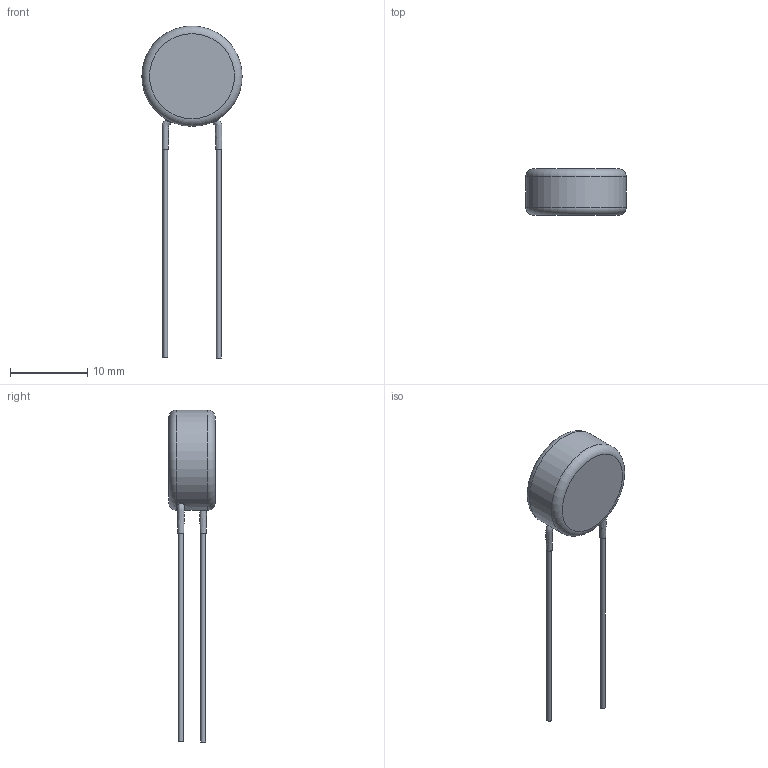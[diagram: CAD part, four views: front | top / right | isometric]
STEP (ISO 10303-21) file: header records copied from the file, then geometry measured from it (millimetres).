
FILE_DESCRIPTION(/* description */ (''),/* implementation_level */ '2;1');
FILE_NAME(/* name */ 'I:\Marketing\M6t1\3D-Models\Zchng-Werk-3\Upload for homepage\BCC neu\AY2 Straight\Step\AY2682M51Y5VS63L7.stp',/* time_stamp */ '2023-07-13T14:09:22+02:00',/* author */ ('truediger'),/* organization */ (''),/* preprocessor_version */ 'ST-DEVELOPER v18',/* originating_system */ 'Autodesk Inventor 2020',/* authorisation */ '');
FILE_SCHEMA (('AUTOMOTIVE_DESIGN { 1 0 10303 214 3 1 1 }'));
Length unit declared in the file: millimetre
Products named in the file (1): Bauteil2
Bounding box: 13 x 6 x 43 mm (x, y, z)
Volume: 799.1 mm3; surface area: 596.5 mm2
Topology: 1 solids, 1 shells, 17 faces, 37 edges, 26 vertices
Faces by surface type: plane 6, bspline 6, cylinder 3, torus 2
Full cylindrical faces by diameter (mm): 0.6 x2, 13 x1
Entity records: 1836 total; most frequent: CARTESIAN_POINT 1413, ORIENTED_EDGE 74, DIRECTION 71, EDGE_CURVE 37, AXIS2_PLACEMENT_3D 34, VERTEX_POINT 26, CIRCLE 22, EDGE_LOOP 21
